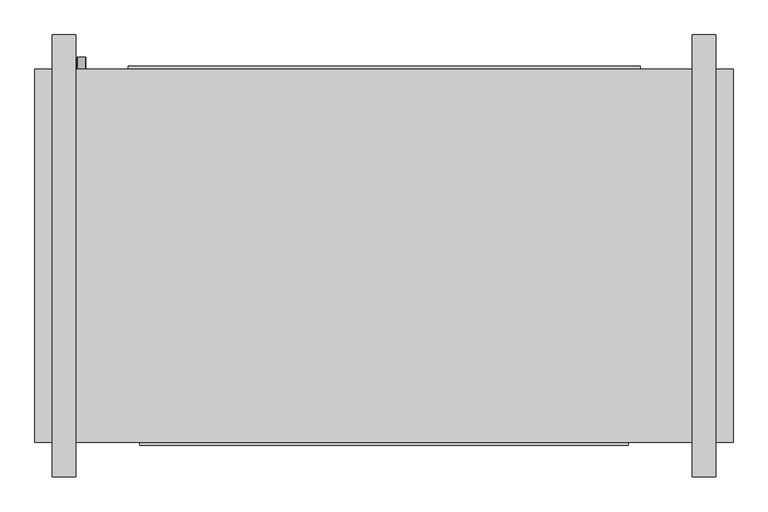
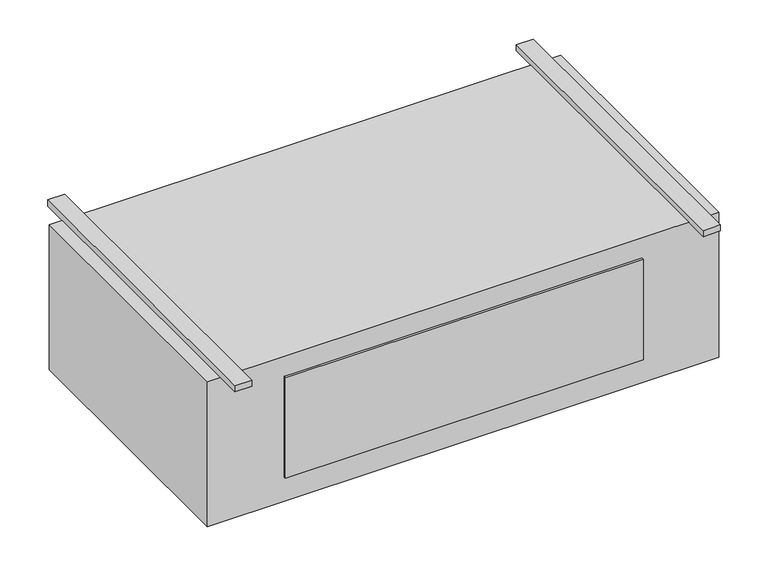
"""IFC4 building model written with IfcOpenShell, lengths in millimetres: proxy geometry, Exposed_High_Capacity_Horizontal_Cabinet_Fan_Coil_Unit_-_42DFA_-_CARRIER_-_4-Pipe_LH_2022 : Size 18 - 277v/60Hz/1Ph - 6/2 Coil."""

from ifc_helpers import new_model, si_unit, point, frame, frame_2d, origin, origin_with_axes, place, context, project, spatial, polyline, circle_curve, trimmed, segment, composite_curve, outline, extrude, source, transform, mapped, element, save


def mechanical_equipment_b19d2d59(model_context):
    return source(origin(), model_context, "Body", "SweptSolid", [
        extrude(outline(composite_curve([segment(trimmed(circle_curve(frame_2d((-406.4, -508.0)), 9.525), [point((-406.4, -517.525))], [point((-406.4, -498.475))], False, "CARTESIAN"), True, "CONTINUOUS"), segment(trimmed(circle_curve(frame_2d((-406.4, -508.0)), 9.525), [point((-406.4, -498.475))], [point((-406.4, -517.525))], False, "CARTESIAN"), True, "CONTINUOUS")], self_intersect=False)), frame((0.0, 169.8625, 0.0), z_axis=(0.0, 1.0, 0.0), x_axis=(0.0, 0.0, 1.0)), (0.0, 0.0, 1.0), 25.4),
        extrude(outline(composite_curve([segment(trimmed(circle_curve(frame_2d((-330.2, -508.0)), 7.9375), [point((-330.2, -515.9375))], [point((-330.2, -500.0625))], False, "CARTESIAN"), True, "CONTINUOUS"), segment(trimmed(circle_curve(frame_2d((-330.2, -508.0)), 7.9375), [point((-330.2, -500.0625))], [point((-330.2, -515.9375))], False, "CARTESIAN"), True, "CONTINUOUS")], self_intersect=False)), frame((0.0, 169.8625, 0.0), z_axis=(0.0, 1.0, 0.0), x_axis=(0.0, 0.0, 1.0)), (0.0, 0.0, 1.0), 25.4),
        extrude(outline(composite_curve([segment(trimmed(circle_curve(frame_2d((-254.0, -508.0)), 7.9375), [point((-254.0, -515.9375))], [point((-254.0, -500.0625))], False, "CARTESIAN"), True, "CONTINUOUS"), segment(trimmed(circle_curve(frame_2d((-254.0, -508.0)), 7.9375), [point((-254.0, -500.0625))], [point((-254.0, -515.9375))], False, "CARTESIAN"), True, "CONTINUOUS")], self_intersect=False)), frame((0.0, 169.8625, 0.0), z_axis=(0.0, 1.0, 0.0), x_axis=(0.0, 0.0, 1.0)), (0.0, 0.0, 1.0), 25.4),
        extrude(outline(composite_curve([segment(trimmed(circle_curve(frame_2d((-177.8, -508.0)), 7.9375), [point((-177.8, -515.9375))], [point((-177.8, -500.0625))], False, "CARTESIAN"), True, "CONTINUOUS"), segment(trimmed(circle_curve(frame_2d((-177.8, -508.0)), 7.9375), [point((-177.8, -500.0625))], [point((-177.8, -515.9375))], False, "CARTESIAN"), True, "CONTINUOUS")], self_intersect=False)), frame((0.0, 169.8625, 0.0), z_axis=(0.0, 1.0, 0.0), x_axis=(0.0, 0.0, 1.0)), (0.0, 0.0, 1.0), 25.4),
        extrude(outline(composite_curve([segment(trimmed(circle_curve(frame_2d((-101.6, -508.0)), 7.9375), [point((-101.6, -515.9375))], [point((-101.6, -500.0625))], False, "CARTESIAN"), True, "CONTINUOUS"), segment(trimmed(circle_curve(frame_2d((-101.6, -508.0)), 7.9375), [point((-101.6, -500.0625))], [point((-101.6, -515.9375))], False, "CARTESIAN"), True, "CONTINUOUS")], self_intersect=False)), frame((0.0, 169.8625, 0.0), z_axis=(0.0, 1.0, 0.0), x_axis=(0.0, 0.0, 1.0)), (0.0, 0.0, 1.0), 25.4),
        extrude(outline(polyline([(914.4, 169.8625), (914.4, -646.1125), (-609.6, -646.1125), (-609.6, 169.8625), (914.4, 169.8625)])), frame((0.0, 0.0, -457.2), z_axis=(0.0, 0.0, 1.0), x_axis=(1.0, 0.0, 0.0)), (0.0, 0.0, 1.0), 457.2),
        extrude(outline(polyline([(-406.4, 176.2125), (711.2, 176.2125), (711.2, 169.8625), (-406.4, 169.8625), (-406.4, 176.2125)])), frame((0.0, 0.0, -381.0), z_axis=(0.0, 0.0, 1.0), x_axis=(1.0, 0.0, 0.0)), (0.0, 0.0, 1.0), 355.6),
        extrude(outline(polyline([(-520.7, 244.475), (-520.7, -720.725), (-571.5, -720.725), (-571.5, 244.475), (-520.7, 244.475)])), origin_with_axes(), (0.0, 0.0, 1.0), 19.05),
        extrude(outline(polyline([(876.3, 244.475), (876.3, -720.725), (825.5, -720.725), (825.5, 244.475), (876.3, 244.475)])), origin_with_axes(), (0.0, 0.0, 1.0), 19.05),
        extrude(outline(polyline([(685.8, -652.4625), (-381.0, -652.4625), (-381.0, -646.1125), (685.8, -646.1125), (685.8, -652.4625)])), frame((0.0, 0.0, -381.0), z_axis=(0.0, 0.0, 1.0), x_axis=(1.0, 0.0, 0.0)), (0.0, 0.0, 1.0), 317.5),
    ])


if __name__ == "__main__":
    model = new_model("IFC4")
    model_context = context("Model", 3, world=origin())
    ifc_project = project(units=[si_unit("LENGTHUNIT", "METRE", prefix="MILLI")], contexts=[model_context])
    site = spatial("IfcSite", under=ifc_project)
    building = spatial("IfcBuilding", under=site)
    placement = place(None, origin())
    mechanical_equipment_shape = mechanical_equipment_b19d2d59(model_context)
    element("IfcBuildingElementProxy", 1, Name="Exposed_High_Capacity_Horizontal_Cabinet_Fan_Coil_Unit_-_42DFA_-_CARRIER_-_4-Pipe_LH_2022 : Size 18 - 277v/60Hz/1Ph - 6/2 Coil", ObjectType="Exposed_High_Capacity_Horizontal_Cabinet_Fan_Coil_Unit_-_42DFA_-_CARRIER_-_4-Pipe_LH_2022 : Size 18 - 277v/60Hz/1Ph - 6/2 Coil", at=placement, inside=building, context=model_context, shape_type="MappedRepresentation", body=[
        mapped(mechanical_equipment_shape, transform((0.0, 0.0, 0.0), x_axis=(1.0, 0.0, 0.0), y_axis=(0.0, 1.0, 0.0), z_axis=(0.0, 0.0, 1.0))),
    ])
    save(model, "model.ifc")
